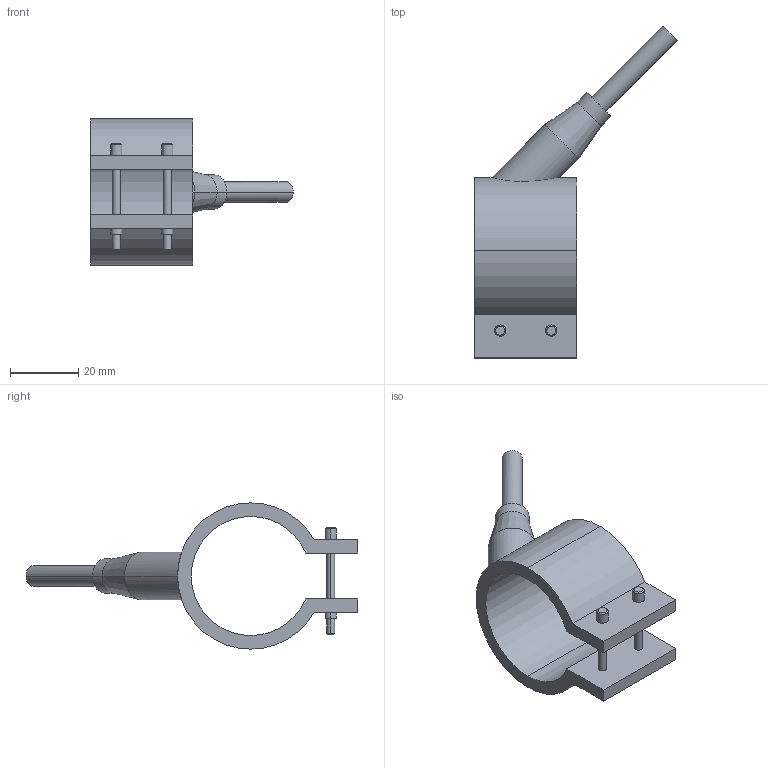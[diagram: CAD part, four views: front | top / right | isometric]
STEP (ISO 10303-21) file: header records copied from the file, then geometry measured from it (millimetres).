
FILE_DESCRIPTION(('CATIA V5 STEP Exchange'),'2;1');
FILE_NAME('C:\Users\Utente\Desktop\IO LAVORO\3D X SITO CF\X SITO\PLASTICA\RF1\29035030.stp','2021-03-27T09:04:09+00:00',('none'),('none'),'CATIA Version 5 Release 20 GA (IN-10)','CATIA V5 STEP AP203','none');
FILE_SCHEMA(('CONFIG_CONTROL_DESIGN'));
Length unit declared in the file: millimetre
Products named in the file (1): 29035030
Bounding box: 59.55 x 97.55 x 43 mm (x, y, z)
Volume: 20970.2 mm3; surface area: 11279.8 mm2
Topology: 1 solids, 1 shells, 54 faces, 123 edges, 79 vertices
Faces by surface type: cylinder 28, plane 16, cone 10
Entity records: 1746 total; most frequent: CARTESIAN_POINT 512, ORIENTED_EDGE 246, DIRECTION 214, EDGE_CURVE 123, AXIS2_PLACEMENT_3D 107, VERTEX_POINT 79, EDGE_LOOP 66, VECTOR 56
